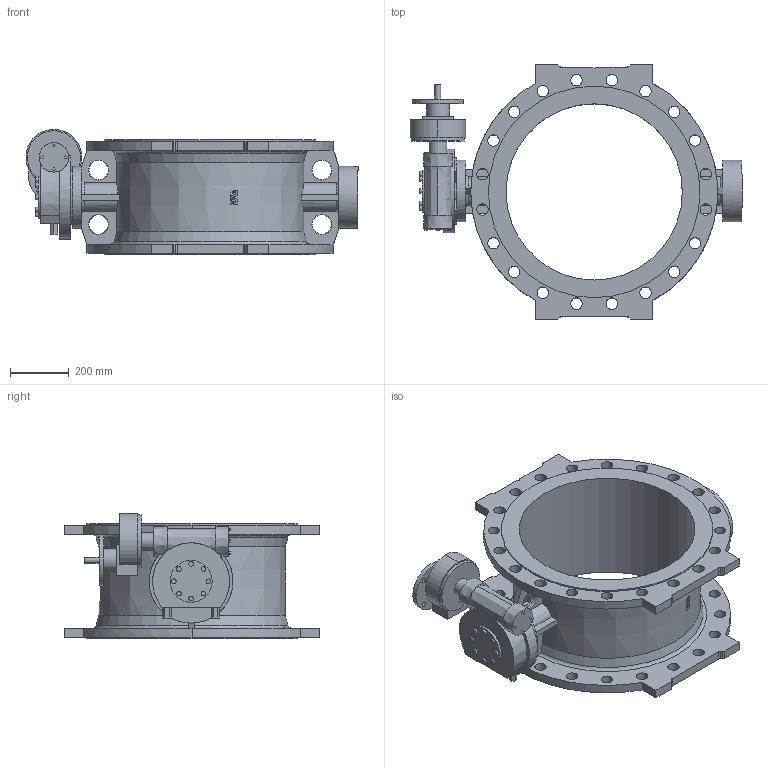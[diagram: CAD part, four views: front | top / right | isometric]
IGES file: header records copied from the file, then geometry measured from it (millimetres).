
Start section: SolidWorks IGES file using analytic representation for surfaces
Global section: file name: \\avksan2\techshare\PBM outline export from Enovia\O_756_102_DN600_1XX_AA0_igs.igs; native system: SolidWorks 2012; preprocessor: SolidWorks 2012; author: pbm; date: 160309.130301; units: millimetre
Bounding box: 1129.92 x 870 x 426 mm (x, y, z)
Surface area: 3416519.8 mm2 (no closed solid volume)
Topology: 0 solids, 0 shells, 440 faces, 2449 edges, 2315 vertices
Faces by surface type: bspline 299, revolution 141
